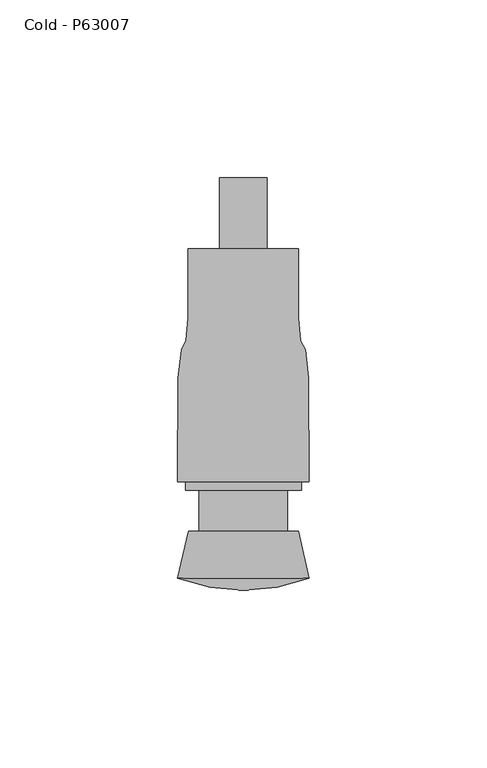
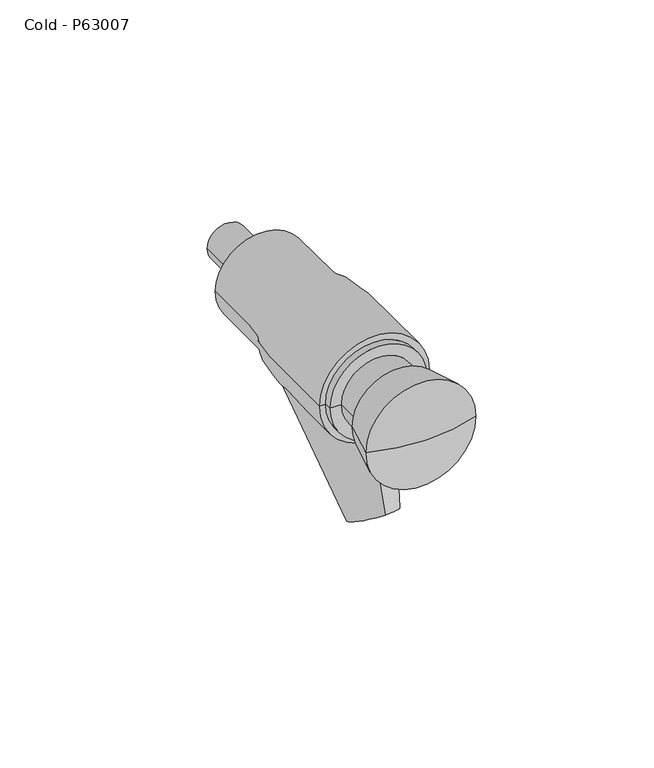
"""IFC4 building model written with IfcOpenShell, lengths in millimetres: flow terminal geometry, Plumbing Fixtures_Tap_Thornthwaite_Presto 504_Cold : Cold - P63007."""

from ifc_helpers import new_model, si_unit, point, frame, origin, place, context, project, spatial, polyline, circle_curve, ellipse_curve, trimmed, source, transform, mapped, element, save
from ifc_brep_helpers import plane_surface, cylinder_surface, revolved_surface, spline_curve, advanced_brep


def cold_p63007_e8478112(model_context):
    return source(origin(), model_context, "Body", "AdvancedBrep", [
        advanced_brep(
        [(-15.449566, -31.4182454, 800.0), (15.449566, -31.4182454, 800.0), (18.5, -44.6611411, 800.0), (-18.5, -44.6611411, 800.0), (0.0, -47.9495832, 800.0), (-6.7, 48.0, 800.0), (6.7, 48.0, 800.0), (15.4976897, 48.0, 800.0), (-15.4976897, 48.0, 800.0), (-16.3010754, -17.5185848, 800.0), (16.3010754, -17.5185848, 800.0), (16.3010754, -19.9190556, 800.0), (-16.3010754, -19.9190556, 800.0), (12.4497861, -19.9190556, 800.0), (-12.4497861, -19.9190556, 800.0), (12.4497861, -31.4182454, 800.0), (-12.4497861, -31.4182454, 800.0), (18.5, -17.5185848, 800.0), (-18.5, -17.5185848, 800.0), (-6.7, 68.0, 800.0), (6.7, 68.0, 800.0), (0.0, 68.0, 800.0)],
        [
            (0, 1, circle_curve(frame((0.0, -31.4182454, 800.0), z_axis=(0.0, -1.0, 0.0), x_axis=(1.0, 0.0, 0.0)), 15.449566)),
            (1, 2),
            (2, 3, circle_curve(frame((0.0, -44.6611411, 800.0), z_axis=(0.0, 1.0, 0.0), x_axis=(1.0, 0.0, 0.0)), 18.5)),
            (3, 0),
            (1, 0, circle_curve(frame((0.0, -31.4182454, 800.0), z_axis=(0.0, -1.0, 0.0), x_axis=(1.0, 0.0, 0.0)), 15.449566)),
            (3, 2, circle_curve(frame((0.0, -44.6611411, 800.0), z_axis=(0.0, 1.0, 0.0), x_axis=(1.0, 0.0, 0.0)), 18.5)),
            (2, 4, circle_curve(frame((0.0, 5.7329565, 800.0), z_axis=(0.0, 0.0, -1.0), x_axis=(0.0, -1.0, 0.0)), 53.6825398)),
            (4, 3, circle_curve(frame((0.0, 5.7329565, 800.0), z_axis=(0.0, 0.0, -1.0), x_axis=(0.0, -1.0, 0.0)), 53.6825398)),
            (5, 6, circle_curve(frame((0.0, 48.0, 800.0), z_axis=(0.0, -1.0, 0.0), x_axis=(1.0, 0.0, 0.0)), 6.7)),
            (6, 7),
            (7, 8, circle_curve(frame((0.0, 48.0, 800.0), z_axis=(0.0, 1.0, 0.0), x_axis=(1.0, 0.0, 0.0)), 15.4976897)),
            (8, 5),
            (6, 5, circle_curve(frame((0.0, 48.0, 800.0), z_axis=(0.0, -1.0, 0.0), x_axis=(1.0, 0.0, 0.0)), 6.7)),
            (8, 7, circle_curve(frame((0.0, 48.0, 800.0), z_axis=(0.0, 1.0, 0.0), x_axis=(1.0, 0.0, 0.0)), 15.4976897)),
            (9, 10, circle_curve(frame((0.0, -17.5185848, 800.0), z_axis=(0.0, -1.0, 0.0), x_axis=(1.0, 0.0, 0.0)), 16.3010754)),
            (10, 11),
            (11, 12, circle_curve(frame((0.0, -19.9190556, 800.0), z_axis=(0.0, 1.0, 0.0), x_axis=(1.0, 0.0, 0.0)), 16.3010754)),
            (12, 9),
            (10, 9, circle_curve(frame((0.0, -17.5185848, 800.0), z_axis=(0.0, -1.0, 0.0), x_axis=(1.0, 0.0, 0.0)), 16.3010754)),
            (12, 11, circle_curve(frame((0.0, -19.9190556, 800.0), z_axis=(0.0, 1.0, 0.0), x_axis=(1.0, 0.0, 0.0)), 16.3010754)),
            (11, 13),
            (13, 14, circle_curve(frame((0.0, -19.9190556, 800.0), z_axis=(0.0, 1.0, 0.0), x_axis=(1.0, 0.0, 0.0)), 12.4497861)),
            (14, 12),
            (14, 13, circle_curve(frame((0.0, -19.9190556, 800.0), z_axis=(0.0, 1.0, 0.0), x_axis=(1.0, 0.0, 0.0)), 12.4497861)),
            (13, 15),
            (15, 16, circle_curve(frame((0.0, -31.4182454, 800.0), z_axis=(0.0, 1.0, 0.0), x_axis=(1.0, 0.0, 0.0)), 12.4497861)),
            (16, 14),
            (16, 15, circle_curve(frame((0.0, -31.4182454, 800.0), z_axis=(0.0, 1.0, 0.0), x_axis=(1.0, 0.0, 0.0)), 12.4497861)),
            (15, 1),
            (0, 16),
            (7, 17, spline_curve(3, [(15.4976897, 48.0, 800.0), (15.4976897, 27.88766136, 800.0), (15.437063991, 24.549577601, 800.0), (16.490220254, 21.314262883, 800.0), (17.033091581, 20.531234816, 800.0), (18.500000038, 17.100716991, 800.0), (18.5, 13.548295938, 800.0), (18.5, -17.5185848, 800.0)], [4, 2, 2, 4], [0.0, 0.03338728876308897, 0.050115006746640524, 0.09531546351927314])),
            (17, 18, circle_curve(frame((0.0, -17.5185848, 800.0), z_axis=(0.0, 1.0, 0.0), x_axis=(1.0, 0.0, 0.0)), 18.5)),
            (18, 8, spline_curve(3, [(-18.5, -17.5185848, 800.0), (-18.5, 13.548295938, 800.0), (-18.500000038, 17.100716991, 800.0), (-17.033091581, 20.531234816, 800.0), (-16.490220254, 21.314262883, 800.0), (-15.437063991, 24.549577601, 800.0), (-15.4976897, 27.88766136, 800.0), (-15.4976897, 48.0, 800.0)], [4, 2, 2, 4], [0.0, 0.04520045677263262, 0.06192817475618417, 0.09531546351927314])),
            (18, 17, circle_curve(frame((0.0, -17.5185848, 800.0), z_axis=(0.0, 1.0, 0.0), x_axis=(1.0, 0.0, 0.0)), 18.5)),
            (17, 10),
            (9, 18),
            (19, 20, circle_curve(frame((0.0, 68.0, 800.0), z_axis=(0.0, -1.0, 0.0), x_axis=(1.0, 0.0, 0.0)), 6.7)),
            (20, 6),
            (5, 19),
            (20, 19, circle_curve(frame((0.0, 68.0, 800.0), z_axis=(0.0, -1.0, 0.0), x_axis=(1.0, 0.0, 0.0)), 6.7)),
            (21, 20),
            (19, 21),
        ],
        [
            revolved_surface(polyline([(18.5, -44.6611411, 800.0), (15.449566, -31.4182454, 800.0)]), (0.0, -1949.4649056, 800.0), (0.0, 1.0, 0.0)),
            revolved_surface(trimmed(ellipse_curve(frame((0.0, 5.7329565, 800.0), z_axis=(0.0, 0.0, 1.0), x_axis=(0.0, -1.0, 0.0)), 53.6825398, 53.6825398), [point((0.0, -47.9495832, 800.0))], [point((18.5, -44.6611411, 800.0))], True, "CARTESIAN"), (0.0, -1949.4649056, 800.0), (0.0, 1.0, 0.0)),
            plane_surface(frame((0.0, 48.0, 800.0), z_axis=(0.0, 1.0, 0.0), x_axis=(1.0, 0.0, 0.0))),
            cylinder_surface(frame((0.0, -1949.4649056, 800.0), z_axis=(0.0, 1.0, 0.0), x_axis=(1.0, 0.0, 0.0)), 16.3010754),
            plane_surface(frame((0.0, -19.9190556, 800.0), z_axis=(0.0, -1.0, 0.0), x_axis=(1.0, 0.0, 0.0))),
            cylinder_surface(frame((0.0, -1949.4649056, 800.0), z_axis=(0.0, 1.0, 0.0), x_axis=(1.0, 0.0, 0.0)), 12.4497861),
            plane_surface(frame((0.0, -31.4182454, 800.0), z_axis=(0.0, 1.0, 0.0), x_axis=(1.0, 0.0, 0.0))),
            revolved_surface(spline_curve(3, [(18.5, -17.5185848, 800.0), (18.5, 13.548295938, 800.0), (18.500000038, 17.100716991, 800.0), (17.033091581, 20.531234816, 800.0), (16.490220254, 21.314262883, 800.0), (15.437063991, 24.549577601, 800.0), (15.4976897, 27.88766136, 800.0), (15.4976897, 48.0, 800.0)], [4, 2, 2, 4], [0.0, 0.04520045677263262, 0.06192817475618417, 0.09531546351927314]), (0.0, -1949.4649056, 800.0), (0.0, 1.0, 0.0)),
            plane_surface(frame((0.0, -17.5185848, 800.0), z_axis=(0.0, -1.0, 0.0), x_axis=(1.0, 0.0, 0.0))),
            cylinder_surface(frame((0.0, -1949.4649056, 800.0), z_axis=(0.0, 1.0, 0.0), x_axis=(1.0, 0.0, 0.0)), 6.7),
            plane_surface(frame((0.0, 68.0, 800.0), z_axis=(0.0, 1.0, 0.0), x_axis=(1.0, 0.0, 0.0))),
        ],
        [
            (0, [[1, 2, 3, 4]]),
            (0, [[5, -4, 6, -2]]),
            (1, [[-3, 7, 8]]),
            (1, [[-6, -8, -7]]),
            (2, [[9, 10, 11, 12]]),
            (2, [[13, -12, 14, -10]]),
            (3, [[15, 16, 17, 18]]),
            (3, [[19, -18, 20, -16]]),
            (4, [[-17, 21, 22, 23]]),
            (4, [[-20, -23, 24, -21]]),
            (5, [[-22, 25, 26, 27]]),
            (5, [[-24, -27, 28, -25]]),
            (6, [[-26, 29, -1, 30]]),
            (6, [[-28, -30, -5, -29]]),
            (7, [[-11, 31, 32, 33]]),
            (7, [[-14, -33, 34, -31]]),
            (8, [[-32, 35, -15, 36]]),
            (8, [[-34, -36, -19, -35]]),
            (9, [[37, 38, -9, 39]]),
            (9, [[40, -39, -13, -38]]),
            (10, [[41, -37, 42]]),
            (10, [[-42, -40, -41]]),
        ],
    ),
        advanced_brep(
        [(0.0, 23.687062, 791.2839553), (0.0, -7.7992474, 808.7371017), (0.0, -10.0030423, 751.1320515), (0.0, -23.9969577, 758.8890055)],
        [
            (0, 1, circle_curve(frame((0.0, 7.9439073, 800.0105285), z_axis=(0.0, 0.4848096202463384, 0.8746197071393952), x_axis=(0.0, 0.8746197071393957, -0.48480962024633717)), 18.0)),
            (1, 0, circle_curve(frame((0.0, 7.9439073, 800.0105285), z_axis=(0.0, 0.4848096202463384, 0.8746197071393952), x_axis=(0.0, -0.8746197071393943, 0.4848096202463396)), 18.0)),
            (2, 3, circle_curve(frame((0.0, -17.0, 755.0105285), z_axis=(0.0, -0.4848096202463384, -0.8746197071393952), x_axis=(0.0, -0.8746197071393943, 0.4848096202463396)), 8.0)),
            (3, 2, circle_curve(frame((0.0, -17.0, 755.0105285), z_axis=(0.0, -0.4848096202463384, -0.8746197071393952), x_axis=(0.0, 0.8746197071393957, -0.48480962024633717)), 8.0)),
            (3, 1),
            (0, 2),
        ],
        [
            plane_surface(frame((0.0, 7.9439073, 800.0105285), z_axis=(0.0, 0.48480962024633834, 0.8746197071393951), x_axis=(-1.0, 0.0, 0.0))),
            plane_surface(frame((0.0, -17.0, 755.0105285), z_axis=(0.0, -0.48480962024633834, -0.8746197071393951), x_axis=(-1.0, 0.0, 0.0))),
            revolved_surface(polyline([(0.0, -23.996957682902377, 758.8890054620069), (0.0, -7.799247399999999, 808.7371017)]), (0.0, -36.9551259, 719.0105285), (0.0, 0.4848096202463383, 0.874619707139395)),
            revolved_surface(polyline([(0.0, -10.003042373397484, 751.1320515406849), (0.0, 23.687062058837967, 791.2839553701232)]), (0.0, -36.9551259, 719.0105285), (0.0, 0.4848096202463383, 0.874619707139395)),
        ],
        [
            (0, [[1, 2]]),
            (1, [[3, 4]]),
            (2, [[-4, 5, -1, 6]]),
            (3, [[-3, -6, -2, -5]]),
        ],
    ),
    ])


if __name__ == "__main__":
    model = new_model("IFC4")
    model_context = context("Model", 3, world=origin())
    ifc_project = project(units=[si_unit("LENGTHUNIT", "METRE", prefix="MILLI")], contexts=[model_context])
    site = spatial("IfcSite", under=ifc_project)
    building = spatial("IfcBuilding", under=site)
    placement = place(None, origin())
    cold_p63007_shape = cold_p63007_e8478112(model_context)
    element("IfcFlowTerminal", 1, ObjectType="Plumbing Fixtures_Tap_Thornthwaite_Presto 504_Cold : Cold - P63007", at=placement, inside=building, context=model_context, shape_type="MappedRepresentation", body=[
        mapped(cold_p63007_shape, transform((0.0, 0.0, 0.0), x_axis=(1.0, 0.0, 0.0), y_axis=(0.0, 1.0, 0.0), z_axis=(0.0, 0.0, 1.0))),
    ])
    save(model, "model.ifc")
